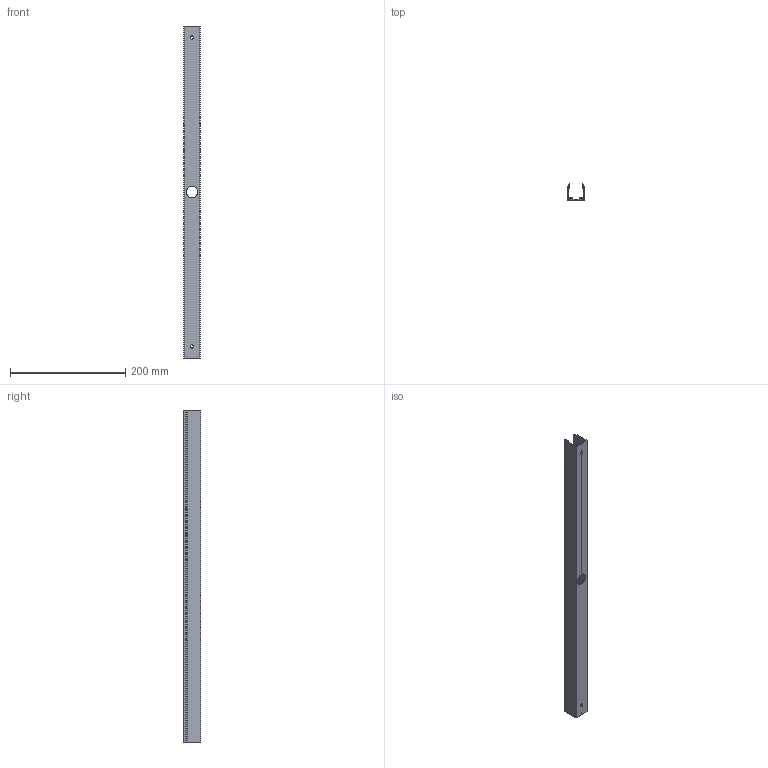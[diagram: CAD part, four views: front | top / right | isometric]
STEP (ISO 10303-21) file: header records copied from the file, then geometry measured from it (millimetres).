
FILE_DESCRIPTION(/* description */ ('Unknown'),/* implementation_level */ '2;1');
FILE_NAME(/* name */ '98472',/* time_stamp */ '2023-02-07T04:34:36-05:00',/* author */ ('Unknown'),/* organization */ ('Unknown'),/* preprocessor_version */ 'ST-DEVELOPER v18.1',/* originating_system */ 'Solid Edge',/* authorisation */ 'Unknown');
FILE_SCHEMA (('AUTOMOTIVE_DESIGN {1 0 10303 214 3 1 1}'));
Length unit declared in the file: millimetre
Products named in the file (1): L-PR0046
Bounding box: 28 x 29.79 x 577 mm (x, y, z)
Volume: 88831.3 mm3; surface area: 115768.9 mm2
Topology: 1 solids, 1 shells, 103 faces, 312 edges, 208 vertices
Faces by surface type: cylinder 60, plane 43
Full cylindrical faces by diameter (mm): 6 x2, 20 x1
Entity records: 3584 total; most frequent: CARTESIAN_POINT 767, ORIENTED_EDGE 606, DIRECTION 578, EDGE_CURVE 303, AXIS2_PLACEMENT_3D 208, VERTEX_POINT 203, LINE 162, VECTOR 162
